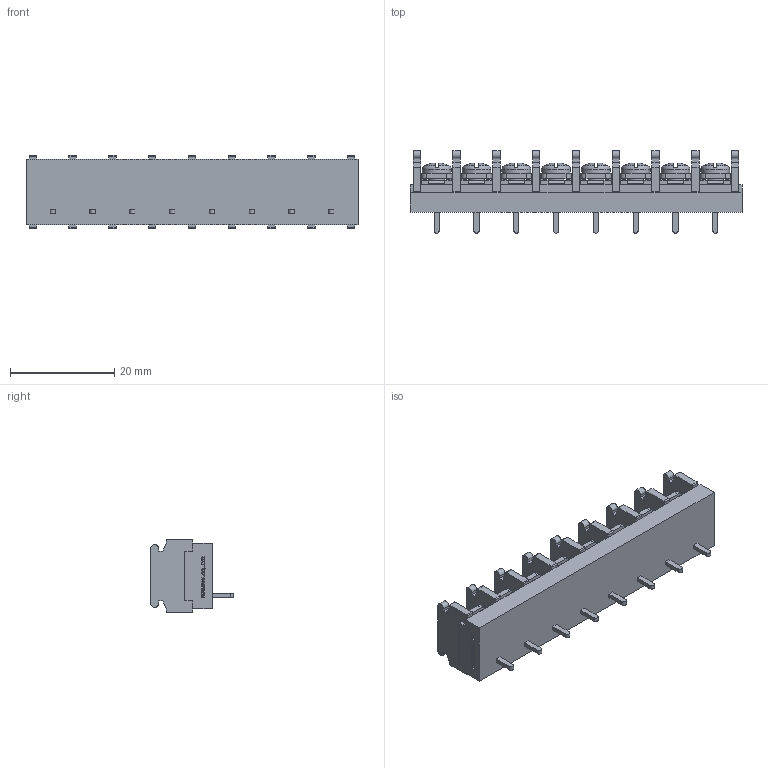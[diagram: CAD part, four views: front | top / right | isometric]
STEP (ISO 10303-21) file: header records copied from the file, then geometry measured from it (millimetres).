
FILE_DESCRIPTION(/* description */ ('Alibre Inc.'),/* implementation_level */ '2;1');
FILE_NAME(/* name */ 'export0',/* time_stamp */ '2015-10-23T19:31:08+09:00',/* author */ (''),/* organization */ (''),/* preprocessor_version */ 'ST-DEVELOPER v14',/* originating_system */ 'Alibre',/* authorisation */ '');
FILE_SCHEMA (('CONFIG_CONTROL_DESIGN'));
Length unit declared in the file: centimetre
Products named in the file (1): ID_1
Bounding box: 63.58 x 15.8 x 14 mm (x, y, z)
Volume: 6015.5 mm3; surface area: 5746.3 mm2
Topology: 1 solids, 1 shells, 1314 faces, 3612 edges, 2372 vertices
Faces by surface type: plane 1012, cylinder 134, bspline 104, cone 32, torus 16, sphere 16
Full cylindrical faces by diameter (mm): 3 x8, 5.5 x8
Entity records: 39733 total; most frequent: CARTESIAN_POINT 8715, ORIENTED_EDGE 7096, DIRECTION 4946, EDGE_CURVE 3548, VECTOR 2584, LINE 2584, VERTEX_POINT 2340, AXIS2_PLACEMENT_3D 1647
